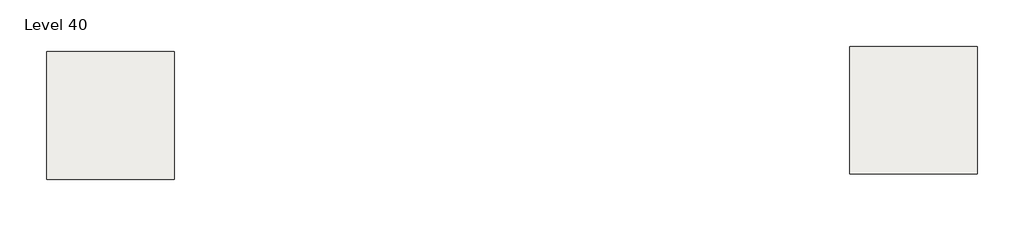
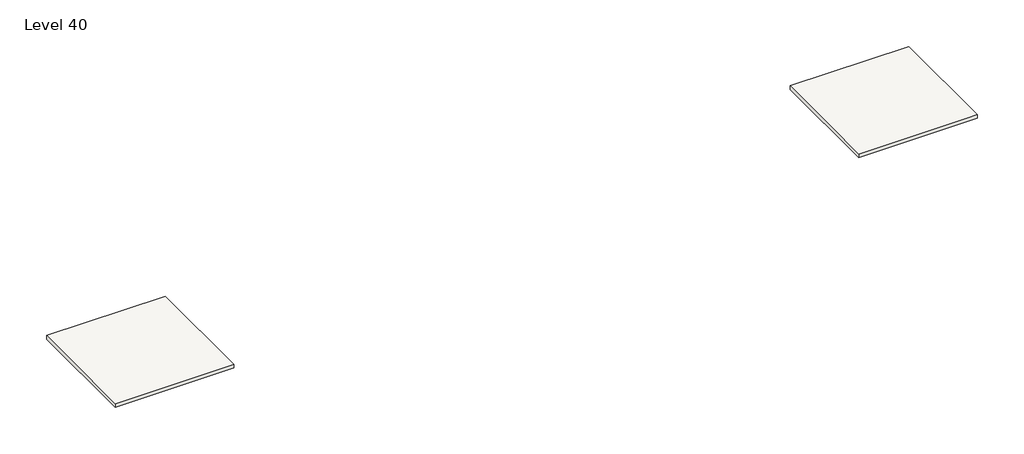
# One storey: 2 slabs.
"""IFC4 building model written with IfcOpenShell, lengths in millimetres."""

import ifcopenshell
import ifcopenshell.guid

model = None  # the IFC model being written
_history = None  # IfcOwnerHistory: only IFC2X3 demands one
_inside = {}  # id of a spatial element -> (the spatial element, [elements in it])
_under = {}  # id of a project, library or spatial element -> (it, [spatial elements below it])
_declared = {}  # id of a project -> (the project, [libraries it declares])
_typed = {}  # id of a type object -> (the type object, [elements of that type])
_made_of = {}  # id of a material, layer set ... -> (it, [elements and type objects made of it])


def new_model(schema):
    """Start an empty IFC model of exactly this schema.

    Asked for "IFC4X3", IfcOpenShell would pick the latest addendum, in which some entities
    have other attributes; the version numbers below select the first issue.
    IFC2X3 requires an IfcOwnerHistory on every rooted entity: one is made here for all.
    """
    global model, _history
    if schema == "IFC4X3":
        model = ifcopenshell.file(schema_version=(4, 3, 0, 0))
    else:
        model = ifcopenshell.file(schema=schema)
    _inside.clear()
    _under.clear()
    _declared.clear()
    _typed.clear()
    _made_of.clear()
    _history = None
    if model.schema == "IFC2X3":
        org = make("IfcOrganization", Name="unknown")
        user = make(
            "IfcPersonAndOrganization",
            ThePerson=make("IfcPerson", FamilyName="unknown"),
            TheOrganization=org,
        )
        app = make(
            "IfcApplication",
            ApplicationDeveloper=org,
            Version="unknown",
            ApplicationFullName="unknown",
            ApplicationIdentifier="unknown",
        )
        _history = make(
            "IfcOwnerHistory",
            OwningUser=user,
            OwningApplication=app,
            ChangeAction="ADDED",
            CreationDate=0,
        )
    return model


def make(cls, **values):
    """One entity of the class cls with the attributes given. An attribute that is None is left unset."""
    return model.create_entity(
        cls, **{name: value for name, value in values.items() if value is not None}
    )


def rooted(cls, **values):
    """An entity with a GlobalId (a new one), such as an element, a storey or a relation."""
    return make(cls, GlobalId=ifcopenshell.guid.new(), OwnerHistory=_history, **values)


def si_unit(unit_type, name, prefix=None):
    """IfcSIUnit, for example si_unit("LENGTHUNIT", "METRE", prefix="MILLI")."""
    return make("IfcSIUnit", UnitType=unit_type, Prefix=prefix, Name=name)


def assignment(units):
    """IfcUnitAssignment: the units of a project."""
    return None if units is None else make("IfcUnitAssignment", Units=units)


def point(xyz):
    """IfcCartesianPoint."""
    return None if xyz is None else make("IfcCartesianPoint", Coordinates=xyz)


def direction(xyz):
    """IfcDirection."""
    return None if xyz is None else make("IfcDirection", DirectionRatios=xyz)


def frame(location, z_axis=None, x_axis=None):
    """IfcAxis2Placement3D, a coordinate frame: its origin and axes. An axis left out is left unset."""
    return make(
        "IfcAxis2Placement3D",
        Location=point(location),
        Axis=direction(z_axis),
        RefDirection=direction(x_axis),
    )


def origin():
    """The frame at (0, 0, 0) with its axes left unset."""
    return frame((0.0, 0.0, 0.0))


def place(relative_to, where):
    """IfcLocalPlacement: puts the frame where relative to a parent placement (None: the world)."""
    return make(
        "IfcLocalPlacement", PlacementRelTo=relative_to, RelativePlacement=where
    )


def context(
    kind, dimensions, precision=None, world=None, true_north=None, identifier=None
):
    """IfcGeometricRepresentationContext, for example the 3D "Model" context."""
    return make(
        "IfcGeometricRepresentationContext",
        ContextIdentifier=identifier,
        ContextType=kind,
        CoordinateSpaceDimension=dimensions,
        Precision=precision,
        WorldCoordinateSystem=world,
        TrueNorth=true_north,
    )


def project(units=None, contexts=None):
    """IfcProject with its units and contexts."""
    return rooted(
        "IfcProject",
        Name="project",
        RepresentationContexts=contexts,
        UnitsInContext=assignment(units),
    )


def spatial(cls, under=None, at=None, **own):
    """A site, building, storey or space (cls), placed at a placement, below another one or the project."""
    s = rooted(cls, ObjectPlacement=at, **own)
    if under is not None:
        _under.setdefault(under.id(), (under, []))[1].append(s)
    return s


def polyline(points):
    """IfcPolyline through the points."""
    return make("IfcPolyline", Points=[point(p) for p in points])


def outline(outer, holes=None, kind="AREA"):
    """IfcArbitraryClosedProfileDef: a profile drawn as a closed curve; with holes, ...WithVoids."""
    if holes is None:
        return make("IfcArbitraryClosedProfileDef", ProfileType=kind, OuterCurve=outer)
    return make(
        "IfcArbitraryProfileDefWithVoids",
        ProfileType=kind,
        OuterCurve=outer,
        InnerCurves=holes,
    )


def extrude(swept, where, along, depth):
    """IfcExtrudedAreaSolid: the profile swept, set in the frame where, extruded along a direction by depth."""
    return make(
        "IfcExtrudedAreaSolid",
        SweptArea=swept,
        Position=where,
        ExtrudedDirection=direction(along),
        Depth=depth,
    )


def shape(context_of_items, identifier, shape_type, items):
    """IfcShapeRepresentation: the items that make up one representation, for example the "Body"."""
    return make(
        "IfcShapeRepresentation",
        ContextOfItems=context_of_items,
        RepresentationIdentifier=identifier,
        RepresentationType=shape_type,
        Items=items,
    )


def made_of(thing, what):
    """Note that an element or type object is made of a material, layer set ...; save() writes the relation."""
    if what is not None:
        _made_of.setdefault(what.id(), (what, []))[1].append(thing)
    return thing


def element(
    cls,
    number,
    at=None,
    inside=None,
    cuts=None,
    type_object=None,
    material=None,
    context=None,
    identifier="Body",
    shape_type=None,
    held_by="IfcProductDefinitionShape",
    body=None,
    shapes=None,
    **own,
):
    """One element of the class cls, such as IfcWall. Its Tag is "e" and its number.

    at: its placement. inside: the storey or other place that contains it. cuts: it is an
    opening in that element (IfcRelVoidsElement). A single representation is given by context,
    identifier, shape_type and body (its items); several are given by shapes. held_by: the class
    of the entity that holds the representations. save() writes the other relations.
    """
    e = rooted(cls, Tag="e%d" % number, ObjectPlacement=at, **own)
    if body is not None:
        shapes = [shape(context, identifier, shape_type, body)]
    if shapes is not None:
        e.Representation = make(held_by, Representations=shapes)
    if inside is not None:
        _inside.setdefault(inside.id(), (inside, []))[1].append(e)
    if cuts is not None:
        rooted(
            "IfcRelVoidsElement", RelatingBuildingElement=cuts, RelatedOpeningElement=e
        )
    if type_object is not None:
        _typed.setdefault(type_object.id(), (type_object, []))[1].append(e)
    return made_of(e, material)


def aggregate(whole, parts):
    """IfcRelAggregates: a whole, such as a stair, and the parts it consists of."""
    return rooted("IfcRelAggregates", RelatingObject=whole, RelatedObjects=parts)


def save(model, path):
    """Write the relations noted so far, then the file.

    IfcRelAggregates (storeys below a building ...), IfcRelContainedInSpatialStructure (elements
    in a storey), IfcRelDefinesByType, IfcRelAssociatesMaterial and IfcRelDeclares: one each for
    every whole, place, type object, material and project.
    """
    for whole, parts in _under.values():
        aggregate(whole, parts)
    for where, things in _inside.values():
        rooted(
            "IfcRelContainedInSpatialStructure",
            RelatedElements=things,
            RelatingStructure=where,
        )
    for kind, things in _typed.values():
        rooted("IfcRelDefinesByType", RelatedObjects=things, RelatingType=kind)
    for what, things in _made_of.values():
        rooted("IfcRelAssociatesMaterial", RelatedObjects=things, RelatingMaterial=what)
    for by, libraries in _declared.values():
        rooted("IfcRelDeclares", RelatingContext=by, RelatedDefinitions=libraries)
    model.write(path)


model = new_model("IFC4")

# Units and contexts
model_context = context("Model", 3, world=origin())
ifc_project = project(units=[si_unit("LENGTHUNIT", "METRE", prefix="MILLI")], contexts=[model_context])

# Site, building, storey
site = spatial("IfcSite", under=ifc_project)
building = spatial("IfcBuilding", under=site)
storey = spatial("IfcBuildingStorey", under=building, Name="Level 40", Elevation=118872.0)

# Slabs
placement = place(None, origin())
element("IfcSlab", 1, ObjectType="Generic - 12\"", at=placement, inside=storey, context=model_context, shape_type="SweptSolid", body=[
    extrude(outline(polyline([(-8641.8488996, 6449.9495511), (-8641.8488996, -2694.0504489), (-17785.8488996, -2694.0504489), (-17785.8488996, 6449.9495511), (-8641.8488996, 6449.9495511)])), frame((0.0, 0.0, 118567.2), z_axis=(0.0, 0.0, 1.0), x_axis=(1.0, 0.0, 0.0)), (0.0, 0.0, 1.0), 304.8),
])
element("IfcSlab", 2, ObjectType="Generic - 12\"", at=placement, inside=storey, context=model_context, shape_type="SweptSolid", body=[
    extrude(outline(polyline([(48791.8576677, 6827.0904402), (48791.8576677, -2316.9095598), (39647.8576677, -2316.9095598), (39647.8576677, 6827.0904402), (48791.8576677, 6827.0904402)])), frame((0.0, 0.0, 118567.2), z_axis=(0.0, 0.0, 1.0), x_axis=(1.0, 0.0, 0.0)), (0.0, 0.0, 1.0), 304.8),
])

save(model, "model.ifc")
